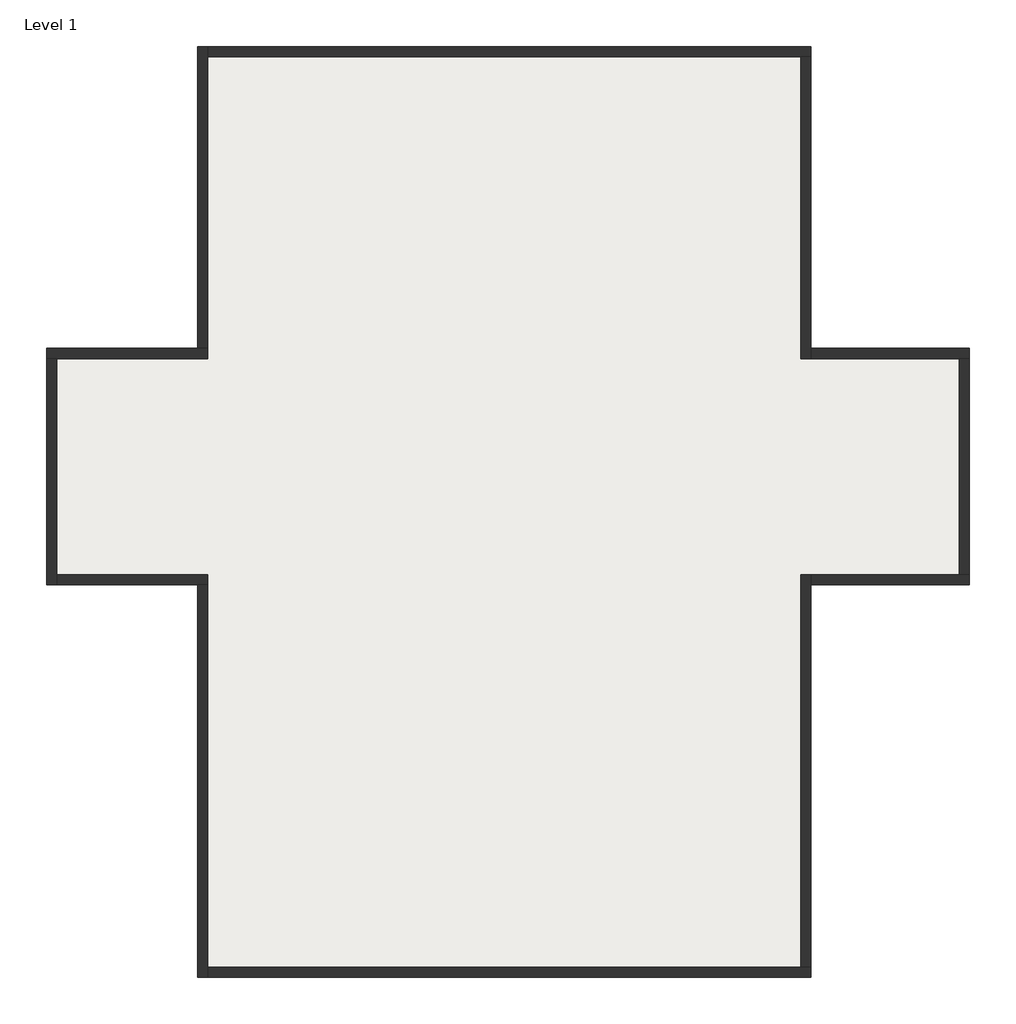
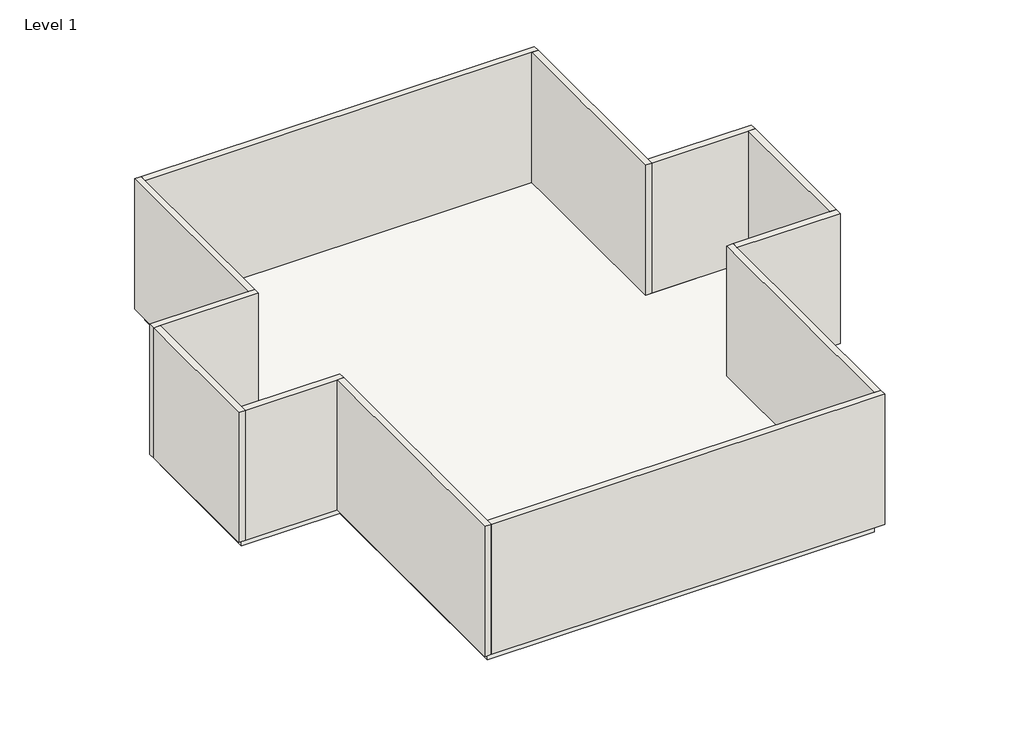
# One storey, incomplete: 12 walls, 1 slab.
"""IFC4 building model written with IfcOpenShell, lengths in millimetres."""

from ifc_helpers import new_model, si_unit, frame, origin, origin_with_axes, place, context, project, spatial, polyline, outline, extrude, faceted_brep, element, save

model = new_model("IFC4")

# Units and contexts
model_context = context("Model", 3, world=origin())
ifc_project = project(units=[si_unit("LENGTHUNIT", "METRE", prefix="MILLI")], contexts=[model_context])

# Site, building, storey
site = spatial("IfcSite", under=ifc_project)
building = spatial("IfcBuilding", under=site)
storey = spatial("IfcBuildingStorey", under=building, Name="Level 1", Elevation=0.0)

# Slab
placement = place(None, origin())
element("IfcSlab", 1, ObjectType="Generic - 12\"", at=placement, inside=storey, context=model_context, shape_type="SweptSolid", body=[
    extrude(outline(polyline([(6530.3643431, 7987.4066271), (6530.3643431, 1891.4066271), (9730.7643431, 1891.4066271), (9730.7643431, -2477.3933729), (6530.3643431, -2477.3933729), (6530.3643431, -10402.1933729), (-5458.4356569, -10402.1933729), (-5458.4356569, -2477.3933729), (-8506.4356569, -2477.3933729), (-8506.4356569, 1891.4066271), (-5458.4356569, 1891.4066271), (-5458.4356569, 7987.4066271), (6530.3643431, 7987.4066271)])), frame((0.0, 0.0, -304.8), z_axis=(0.0, 0.0, 1.0), x_axis=(1.0, 0.0, 0.0)), (0.0, 0.0, 1.0), 304.8),
])

# Walls
element("IfcWall", 2, ObjectType="Generic - 8\"", at=placement, inside=storey, context=model_context, shape_type="Brep", body=[
    faceted_brep([(-8709.6356569, 1891.4066271, 0.0), (-8506.4356569, 1891.4066271, 0.0), (-5458.4356569, 1891.4066271, 0.0), (-5458.4356569, 1891.4066271, 4267.2), (-8506.4356569, 1891.4066271, 4267.2), (-8709.6356569, 1891.4066271, 4267.2), (-8709.6356569, 2094.6066271, 0.0), (-8709.6356569, 2094.6066271, 4267.2), (-5661.6356569, 2094.6066271, 4267.2), (-5458.4356569, 2094.6066271, 4267.2), (-5458.4356569, 2094.6066271, 0.0), (-5661.6356569, 2094.6066271, 0.0)], [[[0, 1, 2, 3, 4, 5]], [[6, 7, 8, 9, 10, 11]], [[2, 1, 0, 6, 11, 10]], [[5, 4, 3, 9, 8, 7]], [[3, 2, 10, 9]], [[0, 5, 7, 6]]]),
])
element("IfcWall", 3, ObjectType="Generic - 8\"", at=placement, inside=storey, context=model_context, shape_type="Brep", body=[
    faceted_brep([(-5458.4356569, 2094.6066271, 0.0), (-5458.4356569, 7987.4066271, 0.0), (-5458.4356569, 8190.6066271, 0.0), (-5458.4356569, 8190.6066271, 4267.2), (-5458.4356569, 7987.4066271, 4267.2), (-5458.4356569, 2094.6066271, 4267.2), (-5661.6356569, 2094.6066271, 0.0), (-5661.6356569, 2094.6066271, 4267.2), (-5661.6356569, 8190.6066271, 4267.2), (-5661.6356569, 8190.6066271, 0.0)], [[[0, 1, 2, 3, 4, 5]], [[6, 7, 8, 9]], [[2, 1, 0, 6, 9]], [[5, 4, 3, 8, 7]], [[3, 2, 9, 8]], [[0, 5, 7, 6]]]),
])
element("IfcWall", 4, ObjectType="Generic - 8\"", at=placement, inside=storey, context=model_context, shape_type="Brep", body=[
    faceted_brep([(-5458.4356569, 7987.4066271, 0.0), (6530.3643431, 7987.4066271, 0.0), (6733.5643431, 7987.4066271, 0.0), (6733.5643431, 7987.4066271, 4267.2), (6530.3643431, 7987.4066271, 4267.2), (-5458.4356569, 7987.4066271, 4267.2), (-5458.4356569, 8190.6066271, 0.0), (-5458.4356569, 8190.6066271, 4267.2), (6733.5643431, 8190.6066271, 4267.2), (6733.5643431, 8190.6066271, 0.0)], [[[0, 1, 2, 3, 4, 5]], [[6, 7, 8, 9]], [[2, 1, 0, 6, 9]], [[5, 4, 3, 8, 7]], [[3, 2, 9, 8]], [[0, 5, 7, 6]]]),
])
element("IfcWall", 5, ObjectType="Generic - 8\"", at=placement, inside=storey, context=model_context, shape_type="Brep", body=[
    faceted_brep([(6530.3643431, 7987.4066271, 0.0), (6530.3643431, 1891.4066271, 0.0), (6530.3643431, 1891.4066271, 4267.2), (6530.3643431, 7987.4066271, 4267.2), (6733.5643431, 7987.4066271, 0.0), (6733.5643431, 7987.4066271, 4267.2), (6733.5643431, 2094.6066271, 4267.2), (6733.5643431, 1891.4066271, 4267.2), (6733.5643431, 1891.4066271, 0.0), (6733.5643431, 2094.6066271, 0.0)], [[[0, 1, 2, 3]], [[4, 5, 6, 7, 8, 9]], [[1, 0, 4, 9, 8]], [[3, 2, 7, 6, 5]], [[2, 1, 8, 7]], [[0, 3, 5, 4]]]),
])
element("IfcWall", 6, ObjectType="Generic - 8\"", at=placement, inside=storey, context=model_context, shape_type="Brep", body=[
    faceted_brep([(6733.5643431, 1891.4066271, 0.0), (9730.7643431, 1891.4066271, 0.0), (9933.9643431, 1891.4066271, 0.0), (9933.9643431, 1891.4066271, 4267.2), (9730.7643431, 1891.4066271, 4267.2), (6733.5643431, 1891.4066271, 4267.2), (6733.5643431, 2094.6066271, 0.0), (6733.5643431, 2094.6066271, 4267.2), (9933.9643431, 2094.6066271, 4267.2), (9933.9643431, 2094.6066271, 0.0)], [[[0, 1, 2, 3, 4, 5]], [[6, 7, 8, 9]], [[2, 1, 0, 6, 9]], [[5, 4, 3, 8, 7]], [[3, 2, 9, 8]], [[0, 5, 7, 6]]]),
])
element("IfcWall", 7, ObjectType="Generic - 8\"", at=placement, inside=storey, context=model_context, shape_type="Brep", body=[
    faceted_brep([(-8709.6356569, 1891.4066271, 0.0), (-8709.6356569, -2680.5933729, 0.0), (-8709.6356569, -2680.5933729, 4267.2), (-8709.6356569, 1891.4066271, 4267.2), (-8506.4356569, 1891.4066271, 0.0), (-8506.4356569, 1891.4066271, 4267.2), (-8506.4356569, -2477.3933729, 4267.2), (-8506.4356569, -2680.5933729, 4267.2), (-8506.4356569, -2680.5933729, 0.0), (-8506.4356569, -2477.3933729, 0.0)], [[[0, 1, 2, 3]], [[4, 5, 6, 7, 8, 9]], [[1, 0, 4, 9, 8]], [[3, 2, 7, 6, 5]], [[2, 1, 8, 7]], [[0, 3, 5, 4]]]),
])
element("IfcWall", 8, ObjectType="Generic - 8\"", at=placement, inside=storey, context=model_context, shape_type="Brep", body=[
    faceted_brep([(-8506.4356569, -2680.5933729, 0.0), (-5661.6356569, -2680.5933729, 0.0), (-5458.4356569, -2680.5933729, 0.0), (-5458.4356569, -2680.5933729, 4267.2), (-5661.6356569, -2680.5933729, 4267.2), (-8506.4356569, -2680.5933729, 4267.2), (-8506.4356569, -2477.3933729, 0.0), (-8506.4356569, -2477.3933729, 4267.2), (-5458.4356569, -2477.3933729, 4267.2), (-5458.4356569, -2477.3933729, 0.0)], [[[0, 1, 2, 3, 4, 5]], [[6, 7, 8, 9]], [[2, 1, 0, 6, 9]], [[5, 4, 3, 8, 7]], [[3, 2, 9, 8]], [[0, 5, 7, 6]]]),
])
element("IfcWall", 9, ObjectType="Generic - 8\"", at=placement, inside=storey, context=model_context, shape_type="Brep", body=[
    faceted_brep([(-5661.6356569, -2680.5933729, 0.0), (-5661.6356569, -10605.3933729, 0.0), (-5661.6356569, -10605.3933729, 4267.2), (-5661.6356569, -2680.5933729, 4267.2), (-5458.4356569, -2680.5933729, 0.0), (-5458.4356569, -2680.5933729, 4267.2), (-5458.4356569, -10402.1933729, 4267.2), (-5458.4356569, -10605.3933729, 4267.2), (-5458.4356569, -10605.3933729, 0.0), (-5458.4356569, -10402.1933729, 0.0)], [[[0, 1, 2, 3]], [[4, 5, 6, 7, 8, 9]], [[1, 0, 4, 9, 8]], [[3, 2, 7, 6, 5]], [[2, 1, 8, 7]], [[0, 3, 5, 4]]]),
])
element("IfcWall", 10, ObjectType="Generic - 8\"", at=placement, inside=storey, context=model_context, shape_type="Brep", body=[
    faceted_brep([(-5458.4356569, -10605.3933729, 0.0), (6733.5643431, -10605.3933729, 0.0), (6733.5643431, -10605.3933729, 4267.2), (-5458.4356569, -10605.3933729, 4267.2), (-5458.4356569, -10402.1933729, 0.0), (-5458.4356569, -10402.1933729, 4267.2), (6530.3643431, -10402.1933729, 4267.2), (6733.5643431, -10402.1933729, 4267.2), (6733.5643431, -10402.1933729, 0.0), (6530.3643431, -10402.1933729, 0.0)], [[[0, 1, 2, 3]], [[4, 5, 6, 7, 8, 9]], [[1, 0, 4, 9, 8]], [[3, 2, 7, 6, 5]], [[2, 1, 8, 7]], [[0, 3, 5, 4]]]),
])
element("IfcWall", 11, ObjectType="Generic - 8\"", at=placement, inside=storey, context=model_context, shape_type="Brep", body=[
    faceted_brep([(6733.5643431, -10402.1933729, 0.0), (6733.5643431, -2680.5933729, 0.0), (6733.5643431, -2477.3933729, 0.0), (6733.5643431, -2477.3933729, 4267.2), (6733.5643431, -2680.5933729, 4267.2), (6733.5643431, -10402.1933729, 4267.2), (6530.3643431, -10402.1933729, 0.0), (6530.3643431, -10402.1933729, 4267.2), (6530.3643431, -2477.3933729, 4267.2), (6530.3643431, -2477.3933729, 0.0)], [[[0, 1, 2, 3, 4, 5]], [[6, 7, 8, 9]], [[2, 1, 0, 6, 9]], [[5, 4, 3, 8, 7]], [[3, 2, 9, 8]], [[0, 5, 7, 6]]]),
])
element("IfcWall", 12, ObjectType="Generic - 8\"", at=placement, inside=storey, context=model_context, shape_type="Brep", body=[
    faceted_brep([(6733.5643431, -2680.5933729, 0.0), (9933.9643431, -2680.5933729, 0.0), (9933.9643431, -2680.5933729, 4267.2), (6733.5643431, -2680.5933729, 4267.2), (6733.5643431, -2477.3933729, 0.0), (6733.5643431, -2477.3933729, 4267.2), (9730.7643431, -2477.3933729, 4267.2), (9933.9643431, -2477.3933729, 4267.2), (9933.9643431, -2477.3933729, 0.0), (9730.7643431, -2477.3933729, 0.0)], [[[0, 1, 2, 3]], [[4, 5, 6, 7, 8, 9]], [[1, 0, 4, 9, 8]], [[3, 2, 7, 6, 5]], [[2, 1, 8, 7]], [[0, 3, 5, 4]]]),
])
element("IfcWall", 13, ObjectType="Generic - 8\"", at=placement, inside=storey, context=model_context, shape_type="SweptSolid", body=[
    extrude(outline(polyline([(9933.9643431, 1891.4066271), (9933.9643431, -2477.3933729), (9730.7643431, -2477.3933729), (9730.7643431, 1891.4066271), (9933.9643431, 1891.4066271)])), origin_with_axes(), (0.0, 0.0, 1.0), 4267.2),
])

save(model, "model.ifc")
